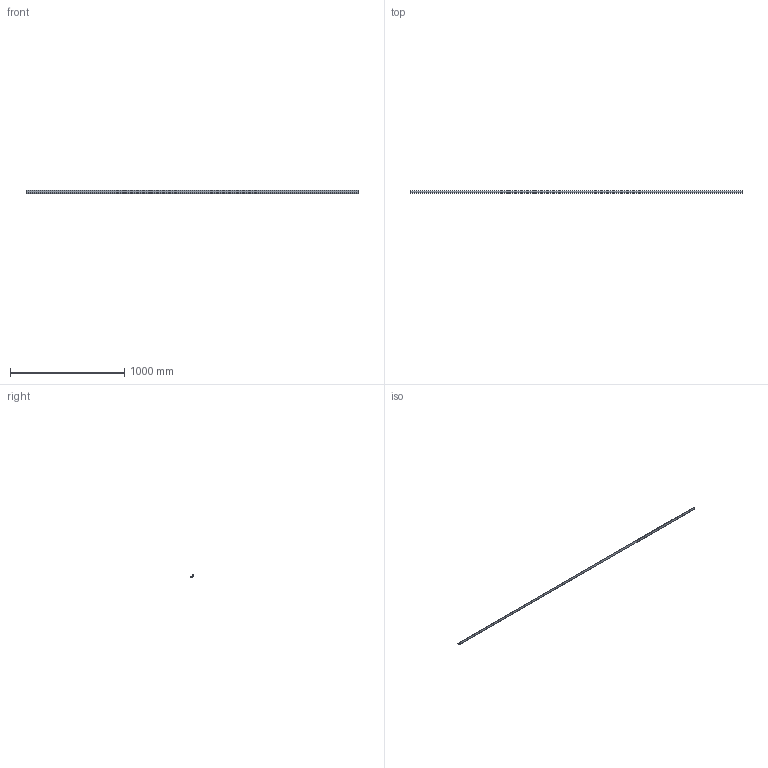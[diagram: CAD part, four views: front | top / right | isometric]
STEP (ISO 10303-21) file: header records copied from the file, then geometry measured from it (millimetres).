
FILE_DESCRIPTION( ( '' ), '1' );
FILE_NAME( 'C:/Users/swati/Desktop/New folder/export/Handle/9237970.stp', '2017-05-08T09:28:30', ( '' ), ( '' ), ' ', ' ', ' ' );
FILE_SCHEMA( ( 'CONFIG_CONTROL_DESIGN' ) );
Length unit declared in the file: millimetre
Products named in the file (1): 1
Bounding box: 2900 x 20 x 28 mm (x, y, z)
Volume: 207321 mm3; surface area: 298065.1 mm2
Topology: 1 solids, 1 shells, 26 faces, 72 edges, 48 vertices
Faces by surface type: plane 26
Entity records: 860 total; most frequent: CARTESIAN_POINT 147, ORIENTED_EDGE 144, DIRECTION 126, EDGE_CURVE 72, LINE 72, VECTOR 72, VERTEX_POINT 48, AXIS2_PLACEMENT_3D 27
